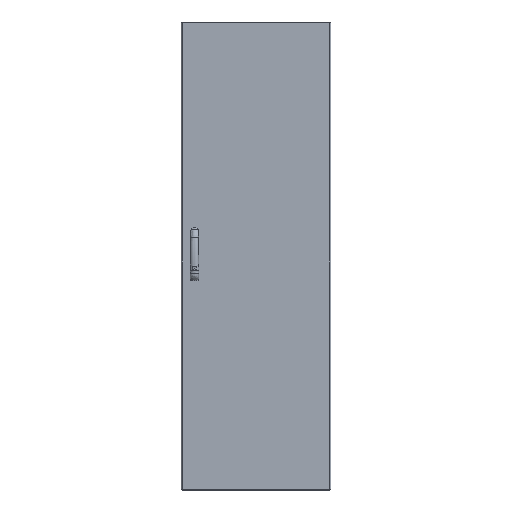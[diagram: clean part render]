
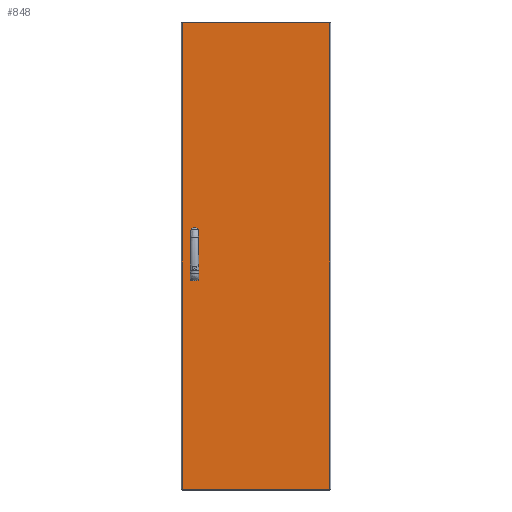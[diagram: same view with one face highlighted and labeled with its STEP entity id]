
A CAD part, top view. The second image highlights one B-rep face of the part: STEP entity #848.
In plain terms, the highlighted planar face has unit normal (0, 0, 1).
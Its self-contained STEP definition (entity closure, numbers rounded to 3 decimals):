
#8 = VECTOR ( 'NONE', #8362, 1000. ) ;
#33 = DIRECTION ( 'NONE',  ( 0., -1., 0. ) ) ;
#47 = VECTOR ( 'NONE', #5984, 1000. ) ;
#55 = AXIS2_PLACEMENT_3D ( 'NONE', #6591, #8640, #1984 ) ;
#221 = DIRECTION ( 'NONE',  ( 0., 0., 1. ) ) ;
#256 = EDGE_CURVE ( 'NONE', #3552, #3182, #437, .T. ) ;
#337 = CARTESIAN_POINT ( 'NONE',  ( 40.53, 799.75, 19. ) ) ;
#424 = CIRCLE ( 'NONE', #5330, 9.5 ) ;
#437 = LINE ( 'NONE', #5043, #8 ) ;
#527 = EDGE_LOOP ( 'NONE', ( #1427, #3699, #4893, #975 ) ) ;
#627 = VECTOR ( 'NONE', #8300, 1000. ) ;
#648 = EDGE_CURVE ( 'NONE', #3182, #6916, #424, .T. ) ;
#764 = CARTESIAN_POINT ( 'NONE',  ( 559., 3., 19. ) ) ;
#848 = ADVANCED_FACE ( 'NONE', ( #3739, #5720, #6523 ), #6468, .F. ) ;
#975 = ORIENTED_EDGE ( 'NONE', *, *, #7128, .F. ) ;
#1009 = EDGE_CURVE ( 'NONE', #6916, #3800, #4710, .T. ) ;
#1082 = LINE ( 'NONE', #4491, #2421 ) ;
#1129 = VERTEX_POINT ( 'NONE', #764 ) ;
#1339 = ORIENTED_EDGE ( 'NONE', *, *, #5303, .F. ) ;
#1417 = VERTEX_POINT ( 'NONE', #6494 ) ;
#1427 = ORIENTED_EDGE ( 'NONE', *, *, #7620, .F. ) ;
#1511 = LINE ( 'NONE', #6035, #6361 ) ;
#1581 = CIRCLE ( 'NONE', #55, 9.5 ) ;
#1638 = ORIENTED_EDGE ( 'NONE', *, *, #1009, .F. ) ;
#1742 = ORIENTED_EDGE ( 'NONE', *, *, #256, .F. ) ;
#1828 = CARTESIAN_POINT ( 'NONE',  ( 50.03, 912.25, 19. ) ) ;
#1874 = CARTESIAN_POINT ( 'NONE',  ( 0., 1760., 19. ) ) ;
#1890 = VECTOR ( 'NONE', #33, 1000. ) ;
#1984 = DIRECTION ( 'NONE',  ( 1., 0., 0. ) ) ;
#2004 = ORIENTED_EDGE ( 'NONE', *, *, #6149, .T. ) ;
#2091 = VERTEX_POINT ( 'NONE', #4222 ) ;
#2194 = DIRECTION ( 'NONE',  ( 0., 1., 0. ) ) ;
#2320 = CARTESIAN_POINT ( 'NONE',  ( 40.53, 847.75, 19. ) ) ;
#2421 = VECTOR ( 'NONE', #5631, 1000. ) ;
#2443 = CIRCLE ( 'NONE', #7505, 9.5 ) ;
#2861 = VECTOR ( 'NONE', #2194, 1000. ) ;
#2895 = DIRECTION ( 'NONE',  ( 1., 0., 0. ) ) ;
#2903 = ORIENTED_EDGE ( 'NONE', *, *, #4908, .T. ) ;
#2980 = CARTESIAN_POINT ( 'NONE',  ( 50.03, 847.75, 19. ) ) ;
#3136 = AXIS2_PLACEMENT_3D ( 'NONE', #7899, #7316, #5989 ) ;
#3182 = VERTEX_POINT ( 'NONE', #8679 ) ;
#3196 = ORIENTED_EDGE ( 'NONE', *, *, #5971, .T. ) ;
#3265 = CARTESIAN_POINT ( 'NONE',  ( 59.53, 960.25, 19. ) ) ;
#3552 = VERTEX_POINT ( 'NONE', #5591 ) ;
#3649 = CARTESIAN_POINT ( 'NONE',  ( 59.53, 799.75, 19. ) ) ;
#3655 = CARTESIAN_POINT ( 'NONE',  ( 59.53, 847.75, 19. ) ) ;
#3699 = ORIENTED_EDGE ( 'NONE', *, *, #8216, .F. ) ;
#3739 = FACE_BOUND ( 'NONE', #527, .T. ) ;
#3800 = VERTEX_POINT ( 'NONE', #4319 ) ;
#3809 = CIRCLE ( 'NONE', #3136, 9.5 ) ;
#3824 = VERTEX_POINT ( 'NONE', #337 ) ;
#3825 = VERTEX_POINT ( 'NONE', #3655 ) ;
#3876 = LINE ( 'NONE', #7310, #47 ) ;
#4017 = CARTESIAN_POINT ( 'NONE',  ( 3., 1760., 19. ) ) ;
#4085 = ORIENTED_EDGE ( 'NONE', *, *, #8071, .T. ) ;
#4222 = CARTESIAN_POINT ( 'NONE',  ( 3., 3., 19. ) ) ;
#4319 = CARTESIAN_POINT ( 'NONE',  ( 59.53, 960.25, 19. ) ) ;
#4360 = DIRECTION ( 'NONE',  ( 1., 0., 0. ) ) ;
#4491 = CARTESIAN_POINT ( 'NONE',  ( 559., 1760., 19. ) ) ;
#4710 = LINE ( 'NONE', #3265, #8299 ) ;
#4744 = DIRECTION ( 'NONE',  ( 0., 1., 0. ) ) ;
#4893 = ORIENTED_EDGE ( 'NONE', *, *, #8217, .F. ) ;
#4908 = EDGE_CURVE ( 'NONE', #6975, #2091, #7962, .T. ) ;
#5043 = CARTESIAN_POINT ( 'NONE',  ( 40.53, 960.25, 19. ) ) ;
#5083 = LINE ( 'NONE', #2320, #627 ) ;
#5303 = EDGE_CURVE ( 'NONE', #3800, #3552, #3809, .T. ) ;
#5330 = AXIS2_PLACEMENT_3D ( 'NONE', #1828, #7138, #4360 ) ;
#5418 = CARTESIAN_POINT ( 'NONE',  ( 59.53, 912.25, 19. ) ) ;
#5545 = CARTESIAN_POINT ( 'NONE',  ( 40.53, 847.75, 19. ) ) ;
#5554 = VERTEX_POINT ( 'NONE', #5545 ) ;
#5591 = CARTESIAN_POINT ( 'NONE',  ( 40.53, 960.25, 19. ) ) ;
#5631 = DIRECTION ( 'NONE',  ( 0., 1., 0. ) ) ;
#5720 = FACE_BOUND ( 'NONE', #6072, .T. ) ;
#5721 = VERTEX_POINT ( 'NONE', #3649 ) ;
#5792 = CARTESIAN_POINT ( 'NONE',  ( 3., 1757., 19. ) ) ;
#5971 = EDGE_CURVE ( 'NONE', #1129, #1417, #1082, .T. ) ;
#5984 = DIRECTION ( 'NONE',  ( -1., 0., 0. ) ) ;
#5989 = DIRECTION ( 'NONE',  ( 1., 0., 0. ) ) ;
#6035 = CARTESIAN_POINT ( 'NONE',  ( 0., 3., 19. ) ) ;
#6072 = EDGE_LOOP ( 'NONE', ( #1742, #1339, #1638, #7004 ) ) ;
#6149 = EDGE_CURVE ( 'NONE', #1417, #6975, #3876, .T. ) ;
#6184 = LINE ( 'NONE', #7650, #2861 ) ;
#6361 = VECTOR ( 'NONE', #6867, 1000. ) ;
#6468 = PLANE ( 'NONE',  #8599 ) ;
#6470 = EDGE_LOOP ( 'NONE', ( #3196, #2004, #2903, #4085 ) ) ;
#6494 = CARTESIAN_POINT ( 'NONE',  ( 559., 1757., 19. ) ) ;
#6523 = FACE_OUTER_BOUND ( 'NONE', #6470, .T. ) ;
#6591 = CARTESIAN_POINT ( 'NONE',  ( 50.03, 799.75, 19. ) ) ;
#6867 = DIRECTION ( 'NONE',  ( 1., 0., 0. ) ) ;
#6916 = VERTEX_POINT ( 'NONE', #5418 ) ;
#6975 = VERTEX_POINT ( 'NONE', #5792 ) ;
#7004 = ORIENTED_EDGE ( 'NONE', *, *, #648, .F. ) ;
#7128 = EDGE_CURVE ( 'NONE', #3824, #5721, #1581, .T. ) ;
#7138 = DIRECTION ( 'NONE',  ( 0., 0., 1. ) ) ;
#7310 = CARTESIAN_POINT ( 'NONE',  ( 0., 1757., 19. ) ) ;
#7316 = DIRECTION ( 'NONE',  ( 0., 0., 1. ) ) ;
#7505 = AXIS2_PLACEMENT_3D ( 'NONE', #2980, #221, #2895 ) ;
#7620 = EDGE_CURVE ( 'NONE', #5554, #3824, #5083, .T. ) ;
#7650 = CARTESIAN_POINT ( 'NONE',  ( 59.53, 847.75, 19. ) ) ;
#7855 = DIRECTION ( 'NONE',  ( 0., 0., -1. ) ) ;
#7899 = CARTESIAN_POINT ( 'NONE',  ( 50.03, 960.25, 19. ) ) ;
#7962 = LINE ( 'NONE', #4017, #1890 ) ;
#8071 = EDGE_CURVE ( 'NONE', #2091, #1129, #1511, .T. ) ;
#8216 = EDGE_CURVE ( 'NONE', #3825, #5554, #2443, .T. ) ;
#8217 = EDGE_CURVE ( 'NONE', #5721, #3825, #6184, .T. ) ;
#8299 = VECTOR ( 'NONE', #4744, 1000. ) ;
#8300 = DIRECTION ( 'NONE',  ( 0., -1., 0. ) ) ;
#8362 = DIRECTION ( 'NONE',  ( 0., -1., 0. ) ) ;
#8471 = DIRECTION ( 'NONE',  ( -1., 0., 0. ) ) ;
#8599 = AXIS2_PLACEMENT_3D ( 'NONE', #1874, #7855, #8471 ) ;
#8640 = DIRECTION ( 'NONE',  ( 0., 0., 1. ) ) ;
#8679 = CARTESIAN_POINT ( 'NONE',  ( 40.53, 912.25, 19. ) ) ;
